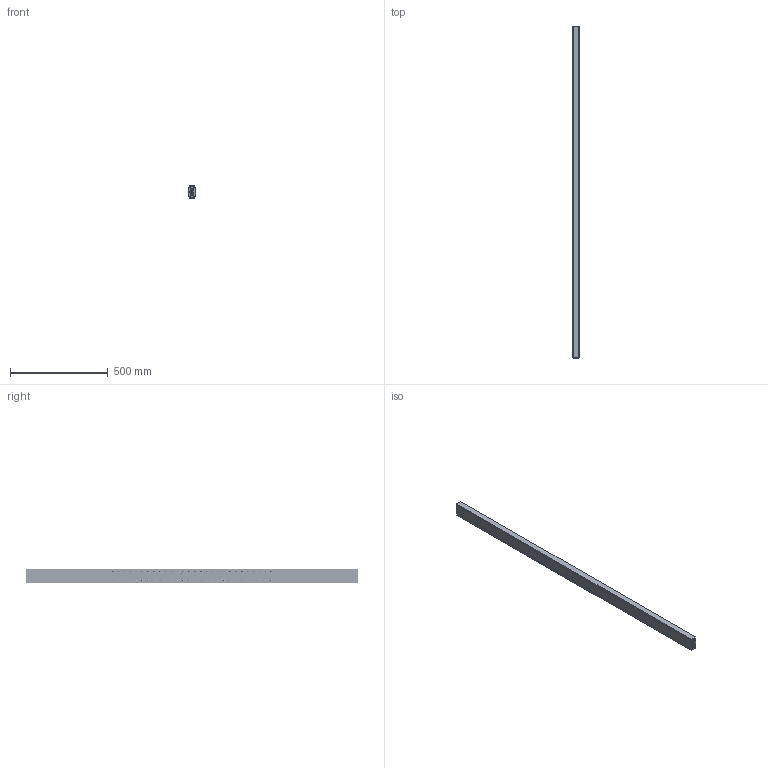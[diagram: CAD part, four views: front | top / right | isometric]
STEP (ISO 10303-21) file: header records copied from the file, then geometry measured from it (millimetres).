
FILE_DESCRIPTION(/* description */ (''),/* implementation_level */ '2;1');
FILE_NAME(/* name */ 'D:\Zeichnungen Schienen Komplett\MX-DTP70\MX-DTP70.170\MX-DTP70.170_eingefahren.step',/* time_stamp */ '2022-08-30T15:35:14+02:00',/* author */ ('zmile'),/* organization */ (''),/* preprocessor_version */ 'ST-DEVELOPER v16.13',/* originating_system */ 'AutoCAD Mechanical',/* authorisation */ '');
FILE_SCHEMA (('AUTOMOTIVE_DESIGN { 1 0 10303 214 3 1 1 }'));
Products named in the file (1): Product
Bounding box: 32 x 1700 x 70 mm (x, y, z)
Volume: 3025252 mm3; surface area: 1076107.7 mm2
Topology: 119 solids, 119 shells, 442 faces, 1264 edges, 840 vertices
Faces by surface type: cylinder 152, sphere 112, plane 86, bspline 86, torus 6
Full cylindrical faces by diameter (mm): 9 x112, 13 x2
Entity records: 195987 total; most frequent: CARTESIAN_POINT 185745, ORIENTED_EDGE 1836, DIRECTION 1782, EDGE_CURVE 918, EDGE_LOOP 842, VERTEX_POINT 838, AXIS2_PLACEMENT_3D 785, FACE_OUTER_BOUND 442
